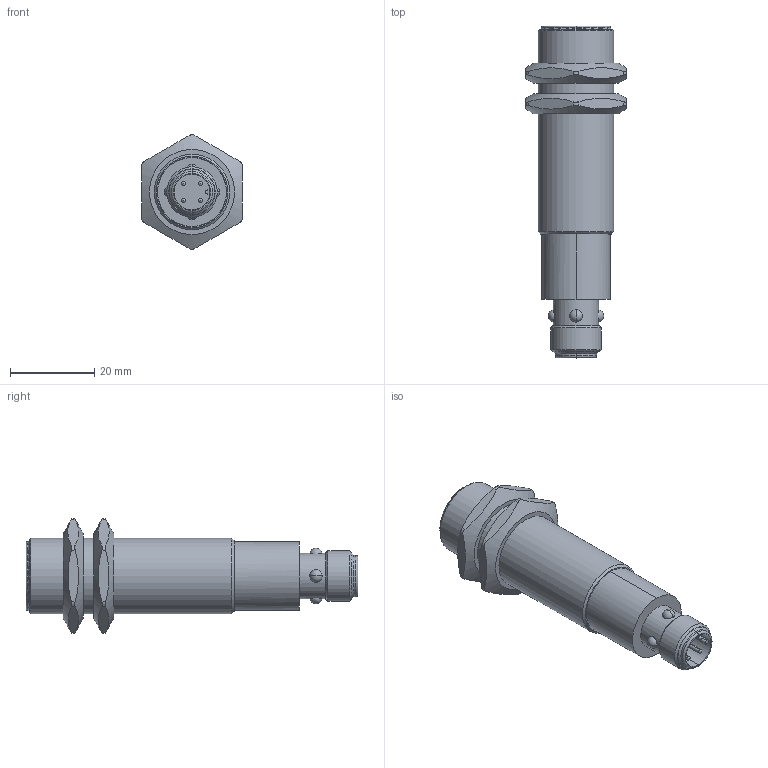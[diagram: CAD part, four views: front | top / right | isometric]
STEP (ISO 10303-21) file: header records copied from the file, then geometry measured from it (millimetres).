
FILE_DESCRIPTION(/* description */ (''),/* implementation_level */ '2;1');
FILE_NAME(/* name */ '19-102969_00.0_1-3DCAD_IS_118MM_4NO_8E0_M12.stp',/* time_stamp */ '2019-06-14T10:27:09+02:00',/* author */ ('CC2'),/* organization */ ('Leuze electronic'),/* preprocessor_version */ 'ST-DEVELOPER v16',/* originating_system */ 'SIEMENS PLM Software NX 11.0',/* authorisation */ '');
FILE_SCHEMA (('AUTOMOTIVE_DESIGN { 1 0 10303 214 3 1 1 1 }'));
Length unit declared in the file: millimetre
Products named in the file (2): 020702_00.0_1-Mutter 6KT - M18_SW24; 19-102969_00.0_1-3DCAD_IS_118MM_4NO_8E0_M12
Assembly tree (2 placements, depth 2):
  19-102969_00.0_1-3DCAD_IS_118MM_4NO_8E0_M12
    020702_00.0_1-Mutter 6KT - M18_SW24  x2
Bounding box: 23.97 x 79 x 27.24 mm (x, y, z)
Volume: 18462.3 mm3; surface area: 6894.4 mm2
Topology: 3 solids, 3 shells, 89 faces, 266 edges, 191 vertices
Faces by surface type: cylinder 34, plane 27, cone 12, sphere 12, torus 4
Full cylindrical faces by diameter (mm): 10.8 x1, 12 x1, 18 x3
Entity records: 2591 total; most frequent: CARTESIAN_POINT 859, ORIENTED_EDGE 350, DIRECTION 328, EDGE_CURVE 175, AXIS2_PLACEMENT_3D 142, VERTEX_POINT 129, EDGE_LOOP 96, ADVANCED_FACE 72
